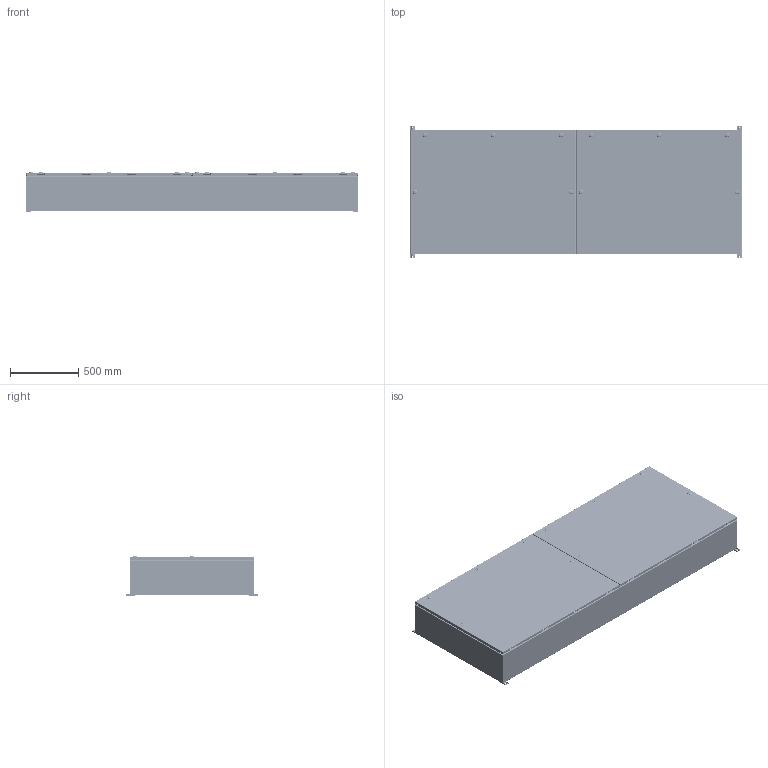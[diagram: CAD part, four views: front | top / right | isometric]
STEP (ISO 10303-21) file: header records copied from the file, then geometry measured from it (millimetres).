
FILE_DESCRIPTION(/* description */ ('1412BTCU 800A - 5 Wires x 96" Assembly'),/* implementation_level */ '2;1');
FILE_NAME(/* name */ 'C:\Vault_Workspace\Inventor_Dwg\BoxCad\Result\1412BTCU08805DT\e-mail\3D\1412BTCU08805DT.stp',/* time_stamp */ '2022-10-20T12:40:16-04:00',/* author */ ('BoxCad'),/* organization */ (''),/* preprocessor_version */ 'ST-DEVELOPER v18.1',/* originating_system */ 'Autodesk Inventor 2020',/* authorisation */ '');
FILE_SCHEMA (('AUTOMOTIVE_DESIGN { 1 0 10303 214 3 1 1 }'));
Products named in the file (70): 1412BTCU08805DT; 1412BTCU08805DTB; 1412BTCU08805DTB-P; 1412BTCU08805DTE-P; STK-Q-16005; iLogic_STK-G-00701; STK-Q-00260; STK-Q-07220-1; STK-Q-07220-A; STK-Q-07220-B; 1412BTCU08805DTC; 1412BTCU08805DTC-P; 1412BTCU08805DTF-P; 1412BTCU08805DTG; STK-Q-16080; STK-K-09800; STK-Q-33014; STK-Q-90398; STK-Q-40095; STK-Q-63410; STK-S-00100; STK-P-02400S; STK-A-880SCQ4-SL-1; STK-A-880SCQ4-SL-2; STK-A-880SCQ4-SL-3; STK-A-880SCQ4-SL-4; STK-A-880SCQ4-SL-5; STK-A-880SCQ4-SL-6; STK-Q-78140; STK-A-880SCQ4-SL-7; STK-A-880SCQ4-SL-8; STK-A-880SCQ4-SL-9; STK-A-880SCQ4-SL-10; STK-Q-78110; STK-Q-78120; STK-Q-78145; STK-Q-03200; STK-Q-78125; STK-Q-78141; STK-Q-90390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
Assembly tree (253 placements, depth 4):
  1412BTCU08805DT
    1412BTCU08805DTB
      1412BTCU08805DTB-P
      1412BTCU08805DTE-P
      STK-Q-16080  x2
      STK-Q-16005  x10
      iLogic_STK-G-00701
      STK-Q-00260  x10
      STK-Q-07220-1  x10
        STK-Q-07220-A
        STK-Q-07220-B
      STK-S-00100
      STK-P-02400S
    1412BTCU08805DTC
      1412BTCU08805DTC-P
      1412BTCU08805DTF-P
      1412BTCU08805DTG  x2
      STK-Q-16080  x2
      STK-K-09800  x8
        STK-Q-33014
        STK-Q-90398
        STK-Q-40095
        STK-Q-63410
      STK-S-00100
      STK-P-02400S
      STK-A-880SCQ4-SL-1
        STK-Q-78110
        STK-Q-78120
        STK-Q-78145
        STK-Q-03200
        STK-Q-78125
        STK-Q-78141
        STK-Q-90390
        STK-Q-78160
      STK-A-880SCQ4-SL-2
        STK-Q-78110
        STK-Q-78120
        STK-Q-78145
        STK-Q-03200
        STK-Q-78125
        STK-Q-78141
        STK-Q-90390
        STK-Q-78160
      STK-A-880SCQ4-SL-3
        STK-Q-78110
        STK-Q-78120
        STK-Q-78145
        STK-Q-03200
        STK-Q-78125
        STK-Q-78141
        STK-Q-90390
        STK-Q-78160
      STK-A-880SCQ4-SL-4
        STK-Q-78110
        STK-Q-78120
        STK-Q-78145
        STK-Q-03200
        STK-Q-78125
        STK-Q-78141
        STK-Q-90390
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Bounding box: 2438.4 x 971.55 x 294.19 mm (x, y, z)
Volume: 20699474.3 mm3; surface area: 18776577.6 mm2
Topology: 395 solids, 395 shells, 54937 faces, 142370 edges, 88100 vertices
Faces by surface type: plane 20535, bspline 14046, cylinder 13789, torus 4429, sphere 1314, cone 824
Full cylindrical faces by diameter (mm): 0.75 x14, 0.762 x14, 1 x32, 1.1 x32, 3.2 x16, 4.5 x80, 4.521 x32, 4.85 x64, 4.95 x16, 5 x10, 5.1 x148, 5.105 x60, 5.6 x8, 5.9 x278, 6.65 x30, 6.8 x10, 6.85 x112, 7.3 x8, 7.366 x8, 7.8 x820, 7.9 x10, 8 x72, 8.25 x40, 8.382 x8, 8.6 x12, 9.5 x10, 9.6 x10, 9.7 x48, 9.906 x4, 10 x10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
Entity records: 233054 total; most frequent: CARTESIAN_POINT 87643, ORIENTED_EDGE 31518, DIRECTION 26758, EDGE_CURVE 15759, VERTEX_POINT 10025, AXIS2_PLACEMENT_3D 9346, LINE 8066, VECTOR 8066
